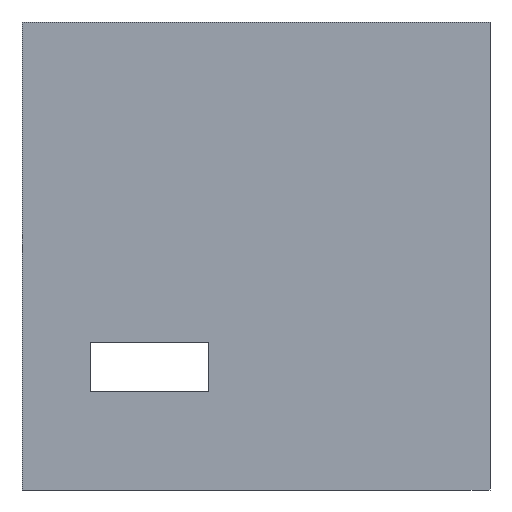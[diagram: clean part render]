
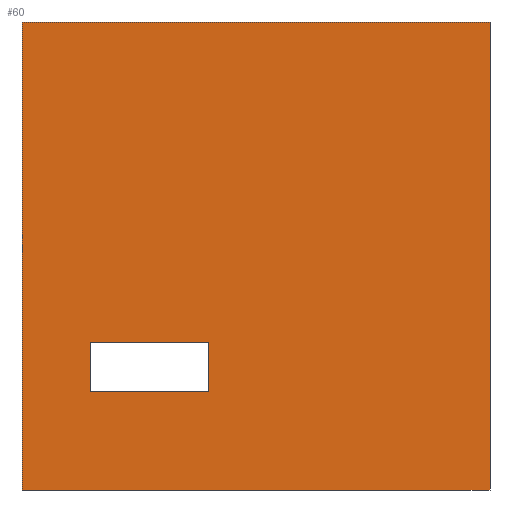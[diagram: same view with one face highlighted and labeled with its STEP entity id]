
A CAD part, front view. The second image highlights one B-rep face of the part: STEP entity #60.
In plain terms, the highlighted planar face has unit normal (0, -1, 0).
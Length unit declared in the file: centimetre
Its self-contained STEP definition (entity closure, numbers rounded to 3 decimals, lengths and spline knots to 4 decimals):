
#13 = PLANE ( 'NONE',  #827 ) ;
#21 = LINE ( 'NONE', #368, #825 ) ;
#34 = VERTEX_POINT ( 'NONE', #802 ) ;
#39 = LINE ( 'NONE', #910, #793 ) ;
#52 = ORIENTED_EDGE ( 'NONE', *, *, #830, .T. ) ;
#60 = ADVANCED_FACE ( 'NONE', ( #1080, #538 ), #13, .F. ) ;
#67 = LINE ( 'NONE', #1267, #1309 ) ;
#94 = LINE ( 'NONE', #1058, #221 ) ;
#113 = LINE ( 'NONE', #1303, #301 ) ;
#139 = CARTESIAN_POINT ( 'NONE',  ( 1000., 0., 1000. ) ) ;
#147 = CARTESIAN_POINT ( 'NONE',  ( 0., 0., 1000. ) ) ;
#152 = DIRECTION ( 'NONE',  ( 0., 0., 1. ) ) ;
#184 = VERTEX_POINT ( 'NONE', #1241 ) ;
#221 = VECTOR ( 'NONE', #519, 100. ) ;
#224 = VECTOR ( 'NONE', #692, 100. ) ;
#236 = ORIENTED_EDGE ( 'NONE', *, *, #1042, .F. ) ;
#254 = CARTESIAN_POINT ( 'NONE',  ( 145.4368, 0., 314.2838 ) ) ;
#264 = VERTEX_POINT ( 'NONE', #614 ) ;
#301 = VECTOR ( 'NONE', #335, 100. ) ;
#330 = EDGE_CURVE ( 'NONE', #184, #333, #94, .T. ) ;
#333 = VERTEX_POINT ( 'NONE', #1160 ) ;
#335 = DIRECTION ( 'NONE',  ( 1., 0., 0. ) ) ;
#368 = CARTESIAN_POINT ( 'NONE',  ( 0., 0., 1000. ) ) ;
#384 = EDGE_CURVE ( 'NONE', #925, #1148, #67, .T. ) ;
#448 = CARTESIAN_POINT ( 'NONE',  ( 0., 0., 1000. ) ) ;
#473 = DIRECTION ( 'NONE',  ( 1., 0., 0. ) ) ;
#519 = DIRECTION ( 'NONE',  ( 0., 0., -1. ) ) ;
#538 = FACE_OUTER_BOUND ( 'NONE', #1166, .T. ) ;
#566 = EDGE_CURVE ( 'NONE', #34, #1148, #1242, .T. ) ;
#587 = CARTESIAN_POINT ( 'NONE',  ( 1000., 0., 0. ) ) ;
#598 = ORIENTED_EDGE ( 'NONE', *, *, #384, .F. ) ;
#614 = CARTESIAN_POINT ( 'NONE',  ( 145.4368, 0., 209.8485 ) ) ;
#660 = VECTOR ( 'NONE', #473, 100. ) ;
#675 = DIRECTION ( 'NONE',  ( 0., 0., -1. ) ) ;
#692 = DIRECTION ( 'NONE',  ( -1., 0., 0. ) ) ;
#702 = ORIENTED_EDGE ( 'NONE', *, *, #566, .T. ) ;
#793 = VECTOR ( 'NONE', #1137, 100. ) ;
#795 = LINE ( 'NONE', #1204, #224 ) ;
#802 = CARTESIAN_POINT ( 'NONE',  ( 0., 0., 0. ) ) ;
#825 = VECTOR ( 'NONE', #675, 100. ) ;
#827 = AXIS2_PLACEMENT_3D ( 'NONE', #448, #1123, #152 ) ;
#830 = EDGE_CURVE ( 'NONE', #876, #184, #893, .T. ) ;
#876 = VERTEX_POINT ( 'NONE', #1339 ) ;
#884 = EDGE_CURVE ( 'NONE', #333, #264, #795, .T. ) ;
#890 = VERTEX_POINT ( 'NONE', #147 ) ;
#893 = LINE ( 'NONE', #254, #660 ) ;
#894 = EDGE_CURVE ( 'NONE', #890, #34, #21, .T. ) ;
#905 = EDGE_LOOP ( 'NONE', ( #1313, #1154, #52, #1168 ) ) ;
#910 = CARTESIAN_POINT ( 'NONE',  ( 145.4368, 0., 209.8485 ) ) ;
#925 = VERTEX_POINT ( 'NONE', #139 ) ;
#933 = DIRECTION ( 'NONE',  ( 1., 0., 0. ) ) ;
#1042 = EDGE_CURVE ( 'NONE', #890, #925, #113, .T. ) ;
#1058 = CARTESIAN_POINT ( 'NONE',  ( 398.9637, 0., 209.8485 ) ) ;
#1080 = FACE_BOUND ( 'NONE', #905, .T. ) ;
#1123 = DIRECTION ( 'NONE',  ( 0., 1., 0. ) ) ;
#1137 = DIRECTION ( 'NONE',  ( 0., 0., 1. ) ) ;
#1148 = VERTEX_POINT ( 'NONE', #587 ) ;
#1152 = EDGE_CURVE ( 'NONE', #264, #876, #39, .T. ) ;
#1154 = ORIENTED_EDGE ( 'NONE', *, *, #1152, .T. ) ;
#1160 = CARTESIAN_POINT ( 'NONE',  ( 398.9637, 0., 209.8485 ) ) ;
#1162 = DIRECTION ( 'NONE',  ( 0., 0., -1. ) ) ;
#1166 = EDGE_LOOP ( 'NONE', ( #702, #598, #236, #1222 ) ) ;
#1168 = ORIENTED_EDGE ( 'NONE', *, *, #330, .T. ) ;
#1204 = CARTESIAN_POINT ( 'NONE',  ( 145.4368, 0., 209.8485 ) ) ;
#1222 = ORIENTED_EDGE ( 'NONE', *, *, #894, .T. ) ;
#1241 = CARTESIAN_POINT ( 'NONE',  ( 398.9637, 0., 314.2838 ) ) ;
#1242 = LINE ( 'NONE', #1271, #1312 ) ;
#1267 = CARTESIAN_POINT ( 'NONE',  ( 1000., 0., 1000. ) ) ;
#1271 = CARTESIAN_POINT ( 'NONE',  ( 0., 0., 0. ) ) ;
#1303 = CARTESIAN_POINT ( 'NONE',  ( 0., 0., 1000. ) ) ;
#1309 = VECTOR ( 'NONE', #1162, 100. ) ;
#1312 = VECTOR ( 'NONE', #933, 100. ) ;
#1313 = ORIENTED_EDGE ( 'NONE', *, *, #884, .T. ) ;
#1339 = CARTESIAN_POINT ( 'NONE',  ( 145.4368, 0., 314.2838 ) ) ;
